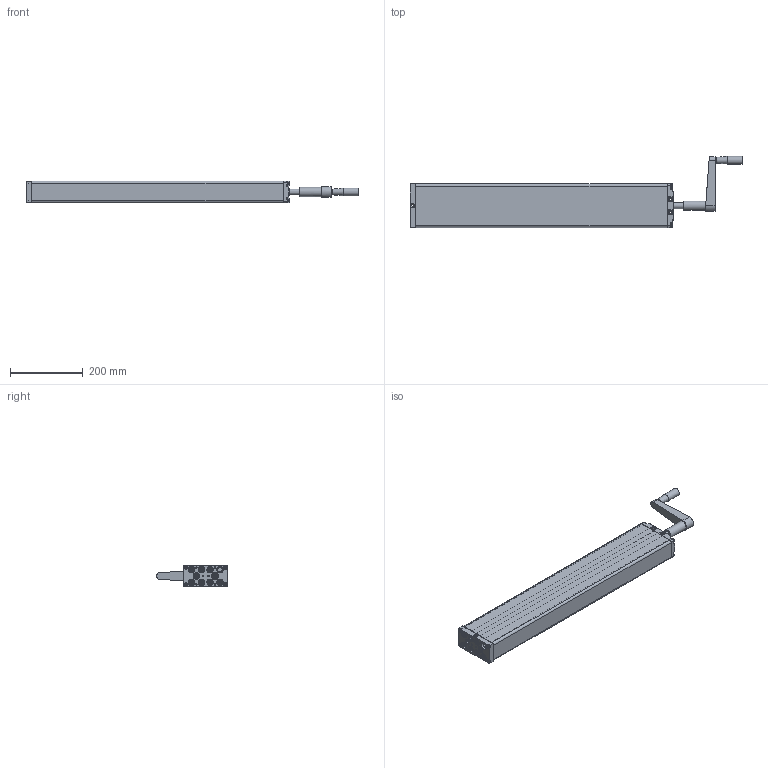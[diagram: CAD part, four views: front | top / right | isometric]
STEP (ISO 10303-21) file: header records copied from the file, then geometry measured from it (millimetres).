
FILE_DESCRIPTION(/* description */ ('Unknown'),/* implementation_level */ '2;1');
FILE_NAME(/* name */ '312.20275 Pumpe PB 9850 W mit Handkurbel',/* time_stamp */ '2016-11-25T15:18:44+01:00',/* author */ ('Unknown'),/* organization */ ('Unknown'),/* preprocessor_version */ 'ST-DEVELOPER v16.7',/* originating_system */ 'DEX',/* authorisation */ $);
FILE_SCHEMA (('AUTOMOTIVE_DESIGN {1 0 10303 214 3 1 1}'));
Products named in the file (23): 102.00275; 115.10035; 125.00061; 115.00008; 142.00021; 125.00021; 113.00005; 128.00001; 125.00052; 126.00013; 125.00053; 127.00014; Handgriff; 142.00013; 125.00145; 115.00140; 126.00006; 122.00040; 119.00045; 126.00036; 142.00057; 142.00083; 142.00017
Assembly tree (41 placements, depth 3):
  102.00275
    115.10035  x9
      125.00061
      115.00008
      142.00021
      125.00021
    113.00005
      128.00001
      125.00052
      126.00013
      125.00053
      127.00014
      Handgriff
    142.00013  x8
    125.00145
    115.00140
      126.00006
      122.00040
    119.00045
    126.00036
    142.00057
    142.00083  x4
    142.00017  x2
Bounding box: 912.75 x 195.5 x 60.3 mm (x, y, z)
Volume: 1045290 mm3; surface area: 669840.5 mm2
Topology: 53 solids, 53 shells, 2290 faces, 5189 edges, 3047 vertices
Faces by surface type: plane 839, cylinder 523, bspline 380, cone 377, torus 112, sphere 59
Full cylindrical faces by diameter (mm): 3.5 x9, 4 x2, 4.1 x9, 4.134 x4, 4.2 x10, 4.917 x4, 5 x12, 5.8 x4, 6 x2, 6.8 x1, 6.917 x18, 8 x20, 8.5 x4, 9.8 x8, 10 x6, 10.4 x1, 10.5 x4, 12.5 x9, 12.8 x1, 13 x29, 14 x1, 14.4 x9, 16 x2, 17 x1, 17.9 x18, 18 x11, 19 x1, 20.6 x1, 21 x1, 22 x1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
Entity records: 64077 total; most frequent: CARTESIAN_POINT 30508, ORIENTED_EDGE 5368, DIRECTION 4821, EDGE_CURVE 2684, AXIS2_PLACEMENT_3D 1877, VERTEX_POINT 1709, FACE_BOUND 1541, EDGE_LOOP 1538
